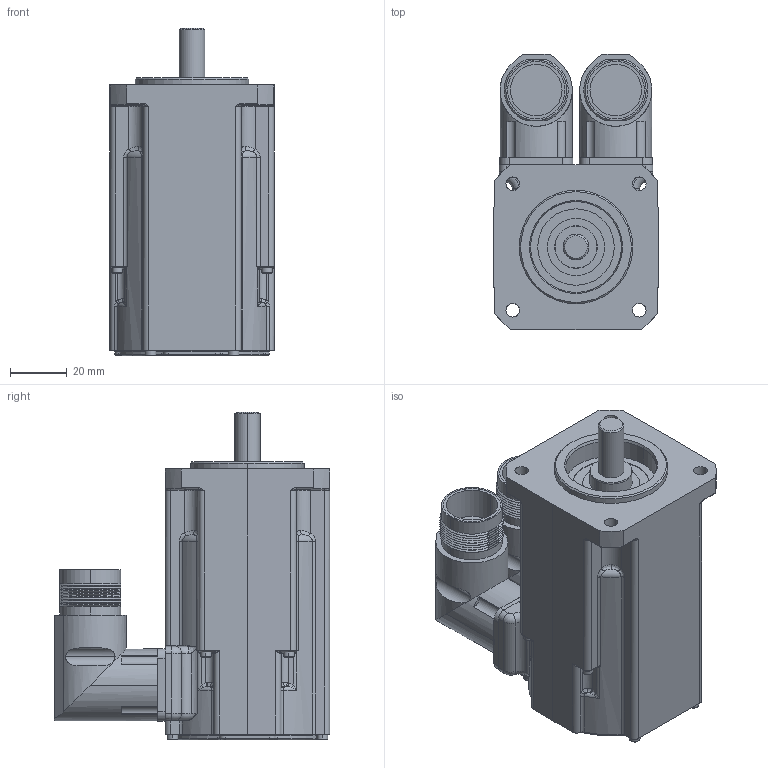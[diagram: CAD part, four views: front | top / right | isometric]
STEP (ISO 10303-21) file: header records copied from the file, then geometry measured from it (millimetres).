
FILE_DESCRIPTION (( 'STEP AP214' ), '1' );
FILE_NAME ('MR7721-Ux-Nxx-G01-A0D-M0-P0.stp', '2009-04-08T13:46:00', ( 'SysAdmin' ), ( 'SolidWorks' ), 'SwSTEP 2.0', 'SolidWorks 2009', '' );
FILE_SCHEMA (( 'AUTOMOTIVE_DESIGN' ));
Length unit declared in the file: millimetre
Products named in the file (1): MR7721-Ux-Nxx-G01-A0D-M0-P0
Bounding box: 58 x 97 x 115.4 mm (x, y, z)
Volume: 332644 mm3; surface area: 42019.5 mm2
Topology: 1 solids, 1 shells, 609 faces, 1522 edges, 920 vertices
Faces by surface type: cylinder 189, bspline 138, cone 124, plane 101, torus 57
Entity records: 24805 total; most frequent: CARTESIAN_POINT 8970, ORIENTED_EDGE 3000, DIRECTION 2653, EDGE_CURVE 1500, AXIS2_PLACEMENT_3D 1123, VERTEX_POINT 920, CIRCLE 651, EDGE_LOOP 644
